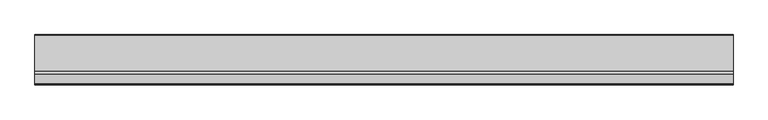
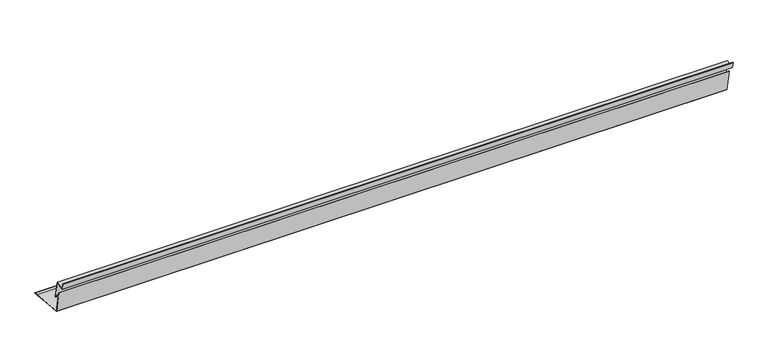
"""IFC4 building model written with IfcOpenShell, lengths in millimetres: proxy geometry, Faitiere contre mur plate : Faitiere contre mur plate."""

import ifcopenshell
import ifcopenshell.guid

model = None  # the IFC model being written
_history = None  # IfcOwnerHistory: only IFC2X3 demands one
_inside = {}  # id of a spatial element -> (the spatial element, [elements in it])
_under = {}  # id of a project, library or spatial element -> (it, [spatial elements below it])
_declared = {}  # id of a project -> (the project, [libraries it declares])
_typed = {}  # id of a type object -> (the type object, [elements of that type])
_made_of = {}  # id of a material, layer set ... -> (it, [elements and type objects made of it])


def new_model(schema):
    """Start an empty IFC model of exactly this schema.

    Asked for "IFC4X3", IfcOpenShell would pick the latest addendum, in which some entities
    have other attributes; the version numbers below select the first issue.
    IFC2X3 requires an IfcOwnerHistory on every rooted entity: one is made here for all.
    """
    global model, _history
    if schema == "IFC4X3":
        model = ifcopenshell.file(schema_version=(4, 3, 0, 0))
    else:
        model = ifcopenshell.file(schema=schema)
    _inside.clear()
    _under.clear()
    _declared.clear()
    _typed.clear()
    _made_of.clear()
    _history = None
    if model.schema == "IFC2X3":
        org = make("IfcOrganization", Name="unknown")
        user = make(
            "IfcPersonAndOrganization",
            ThePerson=make("IfcPerson", FamilyName="unknown"),
            TheOrganization=org,
        )
        app = make(
            "IfcApplication",
            ApplicationDeveloper=org,
            Version="unknown",
            ApplicationFullName="unknown",
            ApplicationIdentifier="unknown",
        )
        _history = make(
            "IfcOwnerHistory",
            OwningUser=user,
            OwningApplication=app,
            ChangeAction="ADDED",
            CreationDate=0,
        )
    return model


def make(cls, **values):
    """One entity of the class cls with the attributes given. An attribute that is None is left unset."""
    return model.create_entity(
        cls, **{name: value for name, value in values.items() if value is not None}
    )


def rooted(cls, **values):
    """An entity with a GlobalId (a new one), such as an element, a storey or a relation."""
    return make(cls, GlobalId=ifcopenshell.guid.new(), OwnerHistory=_history, **values)


def si_unit(unit_type, name, prefix=None):
    """IfcSIUnit, for example si_unit("LENGTHUNIT", "METRE", prefix="MILLI")."""
    return make("IfcSIUnit", UnitType=unit_type, Prefix=prefix, Name=name)


def assignment(units):
    """IfcUnitAssignment: the units of a project."""
    return None if units is None else make("IfcUnitAssignment", Units=units)


def point(xyz):
    """IfcCartesianPoint."""
    return None if xyz is None else make("IfcCartesianPoint", Coordinates=xyz)


def direction(xyz):
    """IfcDirection."""
    return None if xyz is None else make("IfcDirection", DirectionRatios=xyz)


def frame(location, z_axis=None, x_axis=None):
    """IfcAxis2Placement3D, a coordinate frame: its origin and axes. An axis left out is left unset."""
    return make(
        "IfcAxis2Placement3D",
        Location=point(location),
        Axis=direction(z_axis),
        RefDirection=direction(x_axis),
    )


def frame_2d(location, x_axis=None):
    """IfcAxis2Placement2D, a coordinate frame in the plane: its origin and x axis."""
    return make(
        "IfcAxis2Placement2D", Location=point(location), RefDirection=direction(x_axis)
    )


def origin():
    """The frame at (0, 0, 0) with its axes left unset."""
    return frame((0.0, 0.0, 0.0))


def place(relative_to, where):
    """IfcLocalPlacement: puts the frame where relative to a parent placement (None: the world)."""
    return make(
        "IfcLocalPlacement", PlacementRelTo=relative_to, RelativePlacement=where
    )


def context(
    kind, dimensions, precision=None, world=None, true_north=None, identifier=None
):
    """IfcGeometricRepresentationContext, for example the 3D "Model" context."""
    return make(
        "IfcGeometricRepresentationContext",
        ContextIdentifier=identifier,
        ContextType=kind,
        CoordinateSpaceDimension=dimensions,
        Precision=precision,
        WorldCoordinateSystem=world,
        TrueNorth=true_north,
    )


def project(units=None, contexts=None):
    """IfcProject with its units and contexts."""
    return rooted(
        "IfcProject",
        Name="project",
        RepresentationContexts=contexts,
        UnitsInContext=assignment(units),
    )


def spatial(cls, under=None, at=None, **own):
    """A site, building, storey or space (cls), placed at a placement, below another one or the project."""
    s = rooted(cls, ObjectPlacement=at, **own)
    if under is not None:
        _under.setdefault(under.id(), (under, []))[1].append(s)
    return s


def polyline(points):
    """IfcPolyline through the points."""
    return make("IfcPolyline", Points=[point(p) for p in points])


def circle_curve(where, radius):
    """IfcCircle in the frame where."""
    return make("IfcCircle", Position=where, Radius=radius)


def trimmed(basis, trim1, trim2, sense, master):
    """IfcTrimmedCurve: the piece of a basis curve between two trims."""
    return make(
        "IfcTrimmedCurve",
        BasisCurve=basis,
        Trim1=trim1,
        Trim2=trim2,
        SenseAgreement=sense,
        MasterRepresentation=master,
    )


def segment(curve, same_sense, transition):
    """IfcCompositeCurveSegment."""
    return make(
        "IfcCompositeCurveSegment",
        Transition=transition,
        SameSense=same_sense,
        ParentCurve=curve,
    )


def composite_curve(segments, self_intersect=None):
    """IfcCompositeCurve: segments joined end to end."""
    return make("IfcCompositeCurve", Segments=segments, SelfIntersect=self_intersect)


def outline(outer, holes=None, kind="AREA"):
    """IfcArbitraryClosedProfileDef: a profile drawn as a closed curve; with holes, ...WithVoids."""
    if holes is None:
        return make("IfcArbitraryClosedProfileDef", ProfileType=kind, OuterCurve=outer)
    return make(
        "IfcArbitraryProfileDefWithVoids",
        ProfileType=kind,
        OuterCurve=outer,
        InnerCurves=holes,
    )


def extrude(swept, where, along, depth):
    """IfcExtrudedAreaSolid: the profile swept, set in the frame where, extruded along a direction by depth."""
    return make(
        "IfcExtrudedAreaSolid",
        SweptArea=swept,
        Position=where,
        ExtrudedDirection=direction(along),
        Depth=depth,
    )


def shape(context_of_items, identifier, shape_type, items):
    """IfcShapeRepresentation: the items that make up one representation, for example the "Body"."""
    return make(
        "IfcShapeRepresentation",
        ContextOfItems=context_of_items,
        RepresentationIdentifier=identifier,
        RepresentationType=shape_type,
        Items=items,
    )


def source(mapping_origin, context_of_items, identifier, shape_type, items):
    """IfcRepresentationMap: a shape defined once, which mapped items show again and again."""
    return make(
        "IfcRepresentationMap",
        MappingOrigin=mapping_origin,
        MappedRepresentation=shape(context_of_items, identifier, shape_type, items),
    )


def transform(
    local_origin,
    x_axis=None,
    y_axis=None,
    z_axis=None,
    scale=None,
    scale2=None,
    scale3=None,
    uniform=True,
):
    """IfcCartesianTransformationOperator3D, or its non-uniform kind. x_axis, y_axis, z_axis: its Axis1, 2, 3."""
    if uniform:
        return make(
            "IfcCartesianTransformationOperator3D",
            Axis1=direction(x_axis),
            Axis2=direction(y_axis),
            LocalOrigin=point(local_origin),
            Scale=scale,
            Axis3=direction(z_axis),
        )
    return make(
        "IfcCartesianTransformationOperator3DnonUniform",
        Axis1=direction(x_axis),
        Axis2=direction(y_axis),
        LocalOrigin=point(local_origin),
        Scale=scale,
        Axis3=direction(z_axis),
        Scale2=scale2,
        Scale3=scale3,
    )


def mapped(mapping_source, mapping_target):
    """IfcMappedItem: shows the shape of a source again, moved by a transform."""
    return make(
        "IfcMappedItem", MappingSource=mapping_source, MappingTarget=mapping_target
    )


def made_of(thing, what):
    """Note that an element or type object is made of a material, layer set ...; save() writes the relation."""
    if what is not None:
        _made_of.setdefault(what.id(), (what, []))[1].append(thing)
    return thing


def element(
    cls,
    number,
    at=None,
    inside=None,
    cuts=None,
    type_object=None,
    material=None,
    context=None,
    identifier="Body",
    shape_type=None,
    held_by="IfcProductDefinitionShape",
    body=None,
    shapes=None,
    **own,
):
    """One element of the class cls, such as IfcWall. Its Tag is "e" and its number.

    at: its placement. inside: the storey or other place that contains it. cuts: it is an
    opening in that element (IfcRelVoidsElement). A single representation is given by context,
    identifier, shape_type and body (its items); several are given by shapes. held_by: the class
    of the entity that holds the representations. save() writes the other relations.
    """
    e = rooted(cls, Tag="e%d" % number, ObjectPlacement=at, **own)
    if body is not None:
        shapes = [shape(context, identifier, shape_type, body)]
    if shapes is not None:
        e.Representation = make(held_by, Representations=shapes)
    if inside is not None:
        _inside.setdefault(inside.id(), (inside, []))[1].append(e)
    if cuts is not None:
        rooted(
            "IfcRelVoidsElement", RelatingBuildingElement=cuts, RelatedOpeningElement=e
        )
    if type_object is not None:
        _typed.setdefault(type_object.id(), (type_object, []))[1].append(e)
    return made_of(e, material)


def aggregate(whole, parts):
    """IfcRelAggregates: a whole, such as a stair, and the parts it consists of."""
    return rooted("IfcRelAggregates", RelatingObject=whole, RelatedObjects=parts)


def save(model, path):
    """Write the relations noted so far, then the file.

    IfcRelAggregates (storeys below a building ...), IfcRelContainedInSpatialStructure (elements
    in a storey), IfcRelDefinesByType, IfcRelAssociatesMaterial and IfcRelDeclares: one each for
    every whole, place, type object, material and project.
    """
    for whole, parts in _under.values():
        aggregate(whole, parts)
    for where, things in _inside.values():
        rooted(
            "IfcRelContainedInSpatialStructure",
            RelatedElements=things,
            RelatingStructure=where,
        )
    for kind, things in _typed.values():
        rooted("IfcRelDefinesByType", RelatedObjects=things, RelatingType=kind)
    for what, things in _made_of.values():
        rooted("IfcRelAssociatesMaterial", RelatedObjects=things, RelatingMaterial=what)
    for by, libraries in _declared.values():
        rooted("IfcRelDeclares", RelatingContext=by, RelatedDefinitions=libraries)
    model.write(path)


def generic_models_837f975a(model_context):
    return source(origin(), model_context, "Body", "SweptSolid", [
        extrude(outline(composite_curve([segment(trimmed(circle_curve(frame_2d((159.2523227, -15.3193216)), 1.0), [point((159.3394785, -14.3231269))], [point((159.165167, -16.3155163))], False, "CARTESIAN"), True, "CONTINUOUS"), segment(polyline([(159.165167, -16.3155163), (144.2222465, -15.0081801)]), True, "CONTINUOUS"), segment(trimmed(circle_curve(frame_2d((144.2658244, -14.5100828)), 0.5), [point((144.2222465, -15.0081801))], [point((144.3094023, -14.0119854))], False, "CARTESIAN"), True, "CONTINUOUS"), segment(polyline([(144.3094023, -14.0119854), (-8.8420578, -0.6129689), (-26.3680606, 98.7819319), (-25.3832528, 98.9555801), (-7.990495, 0.3163489), (159.3394785, -14.3231269)]), True, "CONTINUOUS")], self_intersect=False)), frame((0.0, 0.0, 0.0), z_axis=(1.0, 0.0, 0.0), x_axis=(0.0, 1.0, 0.0)), (0.0, 0.0, 1.0), 3021.0),
        extrude(outline(composite_curve([segment(trimmed(circle_curve(frame_2d((-0.6113232, 65.7209859)), 1.3755384), [point((0.7433177, 65.9598456))], [point((-1.6650468, 64.8368068))], False, "CARTESIAN"), True, "CONTINUOUS"), segment(polyline([(-1.6650468, 64.8368068), (-9.292635, 73.9270124), (-8.5265905, 74.5698), (-0.8990024, 65.4795944)]), True, "CONTINUOUS"), segment(trimmed(circle_curve(frame_2d((-0.6113232, 65.7209859)), 0.3755384), [point((-0.8990024, 65.4795944))], [point((-0.2414901, 65.7861974))], True, "CARTESIAN"), True, "CONTINUOUS"), segment(polyline([(-0.2414901, 65.7861974), (-13.1023209, 138.7235936), (-52.494631, 131.7776665), (-57.1831318, 158.3674758), (-56.1983241, 158.541124), (-51.6834715, 132.9361224), (-12.2911613, 139.8820495), (0.7433177, 65.9598456)]), True, "CONTINUOUS")], self_intersect=False)), frame((0.0, 0.0, 0.0), z_axis=(1.0, 0.0, 0.0), x_axis=(0.0, 1.0, 0.0)), (0.0, 0.0, 1.0), 3021.0),
    ])


if __name__ == "__main__":
    model = new_model("IFC4")
    model_context = context("Model", 3, world=origin())
    ifc_project = project(units=[si_unit("LENGTHUNIT", "METRE", prefix="MILLI")], contexts=[model_context])
    site = spatial("IfcSite", under=ifc_project)
    building = spatial("IfcBuilding", under=site)
    placement = place(None, origin())
    generic_models_shape = generic_models_837f975a(model_context)
    element("IfcBuildingElementProxy", 1, Name="Faitiere contre mur plate : Faitiere contre mur plate", ObjectType="Faitiere contre mur plate : Faitiere contre mur plate", at=placement, inside=building, context=model_context, shape_type="MappedRepresentation", body=[
        mapped(generic_models_shape, transform((0.0, 0.0, 0.0), x_axis=(1.0, 0.0, 0.0), y_axis=(0.0, 1.0, 0.0), z_axis=(0.0, 0.0, 1.0))),
    ])
    save(model, "model.ifc")
